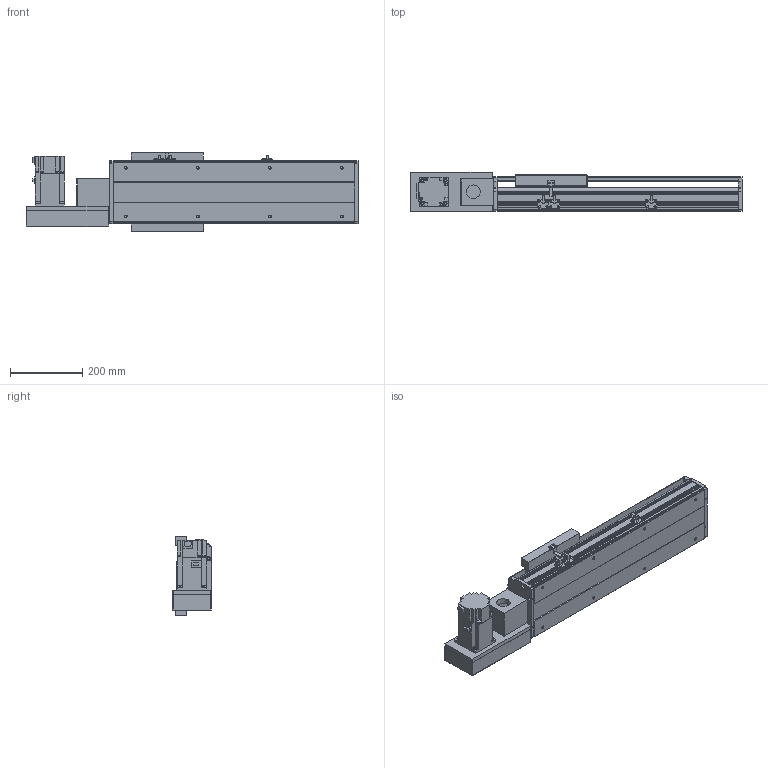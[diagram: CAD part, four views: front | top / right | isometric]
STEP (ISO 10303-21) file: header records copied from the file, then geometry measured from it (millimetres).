
FILE_DESCRIPTION(/* description */ ('STEP AP214'),/* implementation_level */ '2;1');
FILE_NAME(/* name */ 'PBS200-P40-S300-L-T75-C1-N(0)',/* time_stamp */ '2022-06-11T07:47:50+02:00',/* author */ ('License CC BY-ND 4.0'),/* organization */ ('CADENAS'),/* preprocessor_version */ 'ST-DEVELOPER v18.102',/* originating_system */ 'PARTsolutions',/* authorisation */ ' ');
FILE_SCHEMA (('AUTOMOTIVE_DESIGN {1 0 10303 214 3 1 1}'));
Length unit declared in the file: millimetre
Products named in the file (7): PBS200-P40-S300-L-T75-C1-N(0); PBS200_sensor; PBS200_plant; PBS200_sliser; T75-p1; PBS200T-L_motors; PBS200-S300()_body
Assembly tree (8 placements, depth 2):
  PBS200-P40-S300-L-T75-C1-N(0)
    PBS200_sensor  x3
    PBS200_plant
    PBS200_sliser
    T75-p1
    PBS200T-L_motors
    PBS200-S300()_body
Bounding box: 922 x 109 x 221 mm (x, y, z)
Volume: 6866564.1 mm3; surface area: 1130156.7 mm2
Topology: 8 solids, 8 shells, 896 faces, 2334 edges, 1524 vertices
Faces by surface type: plane 566, cylinder 290, cone 40
Full cylindrical faces by diameter (mm): 2.459 x6, 3.242 x4, 4.5 x6, 4.917 x4, 5 x6, 6 x7, 6.6 x8, 6.647 x12, 8 x6, 10 x4, 12 x8, 38 x2, 40 x1, 70 x1
Entity records: 24101 total; most frequent: DIRECTION 4231, CARTESIAN_POINT 4120, ORIENTED_EDGE 3934, EDGE_CURVE 1967, AXIS2_PLACEMENT_3D 1459, VERTEX_POINT 1348, LINE 1313, VECTOR 1313
